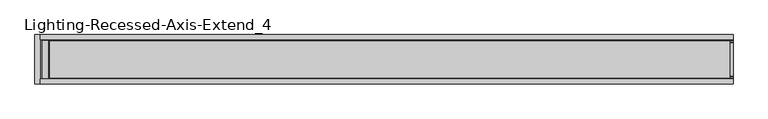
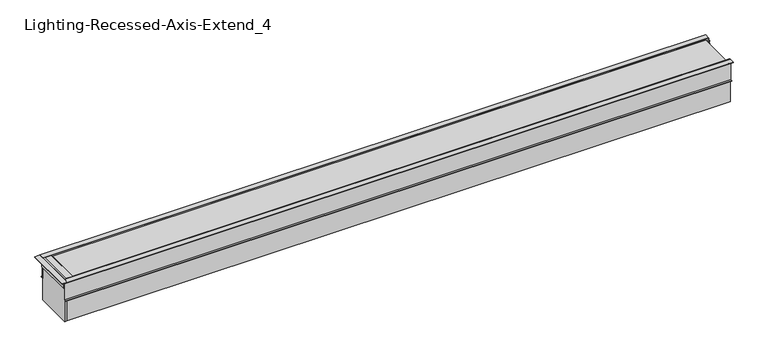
"""IFC4 building model written with IfcOpenShell, lengths in millimetres: light fixture geometry, Lighting-Recessed-Axis-Extend_4 : EX4R-900-80-35-SO-4."""

from ifc_helpers import new_model, si_unit, point, frame, frame_2d, origin, place, context, project, spatial, polyline, circle_curve, trimmed, segment, composite_curve, outline, extrude, faceted_brep, source, transform, mapped, element, save


def lighting_recessed_axis_extend_4_e0629199(model_context):
    return source(origin(), model_context, "Body", "SolidModel", [
        extrude(outline(polyline([(55.07101, -57.023), (59.735562, -57.023), (59.735562, -58.674), (52.78501, -58.674), (52.78501, 1.651), (66.37401, 1.651), (66.37401, 0.0), (55.07101, 0.0), (55.07101, -57.023)])), frame((-935.736, 0.0, 0.0), z_axis=(1.0, 0.0, 0.0), x_axis=(0.0, 1.0, 0.0)), (0.0, 0.0, 1.0), 1859.2927),
        extrude(outline(polyline([(-55.07101, -57.023), (-55.07101, 0.0), (-66.37401, 0.0), (-66.37401, 1.651), (-52.78501, 1.651), (-52.78501, -58.674), (-59.735562, -58.674), (-59.735562, -57.023), (-55.07101, -57.023)])), frame((-935.736, 0.0, 0.0), z_axis=(1.0, 0.0, 0.0), x_axis=(0.0, 1.0, 0.0)), (0.0, 0.0, 1.0), 1859.2927),
        faceted_brep([(-938.022, -52.78501, 0.0), (-938.022, -52.78501, -23.749), (-935.736, -52.78501, -23.749), (-935.736, -52.78501, 0.0), (-935.736, 52.78501, 0.0), (-935.736, 52.78501, -23.749), (-938.022, 52.78501, -23.749), (-938.022, 52.78501, 0.0), (-935.736, 66.37401, 0.0), (-935.736, 66.37401, 1.651), (-935.736, -66.37401, 1.651), (-935.736, -66.37401, 0.0), (-949.579, -66.37401, 0.0), (-949.579, -66.37401, 1.651), (-949.579, 66.37401, 0.0), (-949.579, 66.37401, 1.651)], [[[0, 1, 2, 3]], [[4, 5, 6, 7]], [[1, 0, 7, 6]], [[2, 1, 6, 5]], [[3, 2, 5, 4, 8, 9, 10, 11]], [[12, 11, 10, 13]], [[14, 15, 9, 8]], [[13, 10, 9, 15]], [[12, 13, 15, 14]], [[11, 12, 14, 8, 4, 7, 0, 3]]]),
        extrude(outline(polyline([(0.5492861, -911.0726), (1.651, -911.9971437), (1.651, -929.386), (-2.9332019, -929.386), (-2.9332019, -918.718), (-0.127, -918.718), (-0.127, -911.86635), (-0.92075, -911.86635), (-0.92075, -911.0726), (0.5492861, -911.0726)])), frame((0.0, -50.75301, 0.0), z_axis=(0.0, 1.0, 0.0), x_axis=(0.0, 0.0, 1.0)), (0.0, 0.0, 1.0), 101.50602),
        extrude(outline(polyline([(-929.386, 52.78501), (-929.386, -52.78501), (-935.736, -52.78501), (-935.736, 52.78501), (-929.386, 52.78501)])), frame((0.0, 0.0, -123.1265), z_axis=(0.0, 0.0, 1.0), x_axis=(1.0, 0.0, 0.0)), (0.0, 0.0, 1.0), 124.7775),
        extrude(outline(composite_curve([segment(polyline([(-44.9537362, -3.2385009), (-45.2924281, -9.7011263)]), True, "CONTINUOUS"), segment(trimmed(circle_curve(frame_2d((-48.03521, -12.7)), 4.064), [point((-45.2924281, -9.7011263))], [point((-46.1628914, -16.3070097))], False, "CARTESIAN"), True, "CONTINUOUS"), segment(trimmed(circle_curve(frame_2d((-42.930354, -15.5181543)), 3.3274001), [point((-46.1628914, -16.3070097))], [point((-45.3476056, -17.8047425))], True, "CARTESIAN"), True, "CONTINUOUS"), segment(trimmed(circle_curve(frame_2d((-37.9113277, -10.7704292)), 10.2362001), [point((-45.3476056, -17.8047425))], [point((-43.9929166, -19.0041445))], True, "CARTESIAN"), True, "CONTINUOUS"), segment(trimmed(circle_curve(frame_2d((-44.4833673, -19.6681538)), 0.8255), [point((-43.9929166, -19.0041445))], [point((-44.973818, -20.3321631))], False, "CARTESIAN"), True, "CONTINUOUS"), segment(trimmed(circle_curve(frame_2d((-37.9113269, -10.7704283)), 11.8872013), [point((-44.973818, -20.3321631))], [point((-46.5470052, -18.9393092))], False, "CARTESIAN"), True, "CONTINUOUS"), segment(trimmed(circle_curve(frame_2d((-42.930354, -15.5181543)), 4.9784001), [point((-46.5470052, -18.9393092))], [point((-47.8918907, -15.10874))], False, "CARTESIAN"), True, "CONTINUOUS"), segment(trimmed(circle_curve(frame_2d((-48.03521, -12.7)), 2.413), [point((-47.8918907, -15.10874))], [point((-46.2564041, -11.0695342))], True, "CARTESIAN"), True, "CONTINUOUS"), segment(trimmed(circle_curve(frame_2d((-44.3839769, -9.3532544)), 2.54), [point((-46.2564041, -11.0695342))], [point((-46.9204959, -9.2203211))], False, "CARTESIAN"), True, "CONTINUOUS"), segment(polyline([(-46.9204959, -9.2203211), (-46.607002, -3.2385009), (-49.61001, -3.2385009), (-49.61001, -1.3335), (49.61001, -1.3335), (49.61001, -3.2385009), (46.607002, -3.2385009), (46.9204959, -9.2203211)]), True, "CONTINUOUS"), segment(trimmed(circle_curve(frame_2d((44.3839769, -9.3532544)), 2.54), [point((46.9204959, -9.2203211))], [point((46.2564041, -11.0695342))], False, "CARTESIAN"), True, "CONTINUOUS"), segment(trimmed(circle_curve(frame_2d((48.03521, -12.7)), 2.413), [point((46.2564041, -11.0695342))], [point((47.8918907, -15.10874))], True, "CARTESIAN"), True, "CONTINUOUS"), segment(trimmed(circle_curve(frame_2d((42.930354, -15.5181543)), 4.9784001), [point((47.8918907, -15.10874))], [point((46.5470052, -18.9393092))], False, "CARTESIAN"), True, "CONTINUOUS"), segment(trimmed(circle_curve(frame_2d((37.9113269, -10.7704283)), 11.8872013), [point((46.5470052, -18.9393092))], [point((44.973818, -20.3321631))], False, "CARTESIAN"), True, "CONTINUOUS"), segment(trimmed(circle_curve(frame_2d((44.4833673, -19.6681538)), 0.8255), [point((44.973818, -20.3321631))], [point((43.9929166, -19.0041445))], False, "CARTESIAN"), True, "CONTINUOUS"), segment(trimmed(circle_curve(frame_2d((37.9113277, -10.7704292)), 10.2362001), [point((43.9929166, -19.0041445))], [point((45.3476056, -17.8047425))], True, "CARTESIAN"), True, "CONTINUOUS"), segment(trimmed(circle_curve(frame_2d((42.930354, -15.5181543)), 3.3274001), [point((45.3476056, -17.8047425))], [point((46.1628914, -16.3070097))], True, "CARTESIAN"), True, "CONTINUOUS"), segment(trimmed(circle_curve(frame_2d((48.03521, -12.7)), 4.064), [point((46.1628914, -16.3070097))], [point((45.2924281, -9.7011263))], False, "CARTESIAN"), True, "CONTINUOUS"), segment(polyline([(45.2924281, -9.7011263), (44.9537362, -3.2385009), (-44.9537362, -3.2385009)]), True, "CONTINUOUS")], self_intersect=False)), frame((-914.4, 0.0, 0.0), z_axis=(1.0, 0.0, 0.0), x_axis=(0.0, 1.0, 0.0)), (0.0, 0.0, 1.0), 1828.8),
        extrude(outline(composite_curve([segment(polyline([(-50.75301, -13.2588), (-50.75301, -121.0945), (50.75301, -121.0945), (50.75301, -13.2588), (48.9135897, -13.2588)]), True, "CONTINUOUS"), segment(trimmed(circle_curve(frame_2d((47.4072397, -13.2588)), 1.5063501), [point((48.9135897, -13.2588))], [point((46.6540646, -14.5633374))], False, "CARTESIAN"), True, "CONTINUOUS"), segment(trimmed(circle_curve(frame_2d((47.8452221, -12.5001921)), 2.382315), [point((46.6540646, -14.5633374))], [point((45.4706616, -12.3081318))], False, "CARTESIAN"), True, "CONTINUOUS"), segment(polyline([(45.4706616, -12.3081318), (48.84801, -9.4742), (48.84801, -11.2268), (50.75301, -11.2268), (50.75301, -4.699), (48.84801, -4.699), (48.84801, -6.223), (47.19701, -6.1364748), (47.19701, -3.429), (50.75301, -3.429), (50.75301, 1.651), (52.78501, 1.651), (52.78501, -123.1265), (-52.78501, -123.1265), (-52.78501, 1.651), (-50.75301, 1.651), (-50.75301, -3.429), (-47.19701, -3.429), (-47.19701, -6.1364748), (-48.84801, -6.223), (-48.84801, -4.699), (-50.75301, -4.699), (-50.75301, -11.2268), (-48.84801, -11.2268), (-48.84801, -9.4742), (-45.4706616, -12.3081318)]), True, "CONTINUOUS"), segment(trimmed(circle_curve(frame_2d((-47.8452221, -12.5001921)), 2.382315), [point((-45.4706616, -12.3081318))], [point((-46.6540646, -14.5633374))], False, "CARTESIAN"), True, "CONTINUOUS"), segment(trimmed(circle_curve(frame_2d((-47.4072397, -13.2588)), 1.5063501), [point((-46.6540646, -14.5633374))], [point((-48.9135897, -13.2588))], False, "CARTESIAN"), True, "CONTINUOUS"), segment(polyline([(-48.9135897, -13.2588), (-50.75301, -13.2588)]), True, "CONTINUOUS")], self_intersect=False)), frame((-929.386, 0.0, 0.0), z_axis=(1.0, 0.0, 0.0), x_axis=(0.0, 1.0, 0.0)), (0.0, 0.0, 1.0), 1852.9427),
    ])


if __name__ == "__main__":
    model = new_model("IFC4")
    model_context = context("Model", 3, world=origin())
    ifc_project = project(units=[si_unit("LENGTHUNIT", "METRE", prefix="MILLI")], contexts=[model_context])
    site = spatial("IfcSite", under=ifc_project)
    building = spatial("IfcBuilding", under=site)
    placement = place(None, origin())
    lighting_recessed_axis_extend_4_shape = lighting_recessed_axis_extend_4_e0629199(model_context)
    element("IfcLightFixture", 1, ObjectType="Lighting-Recessed-Axis-Extend_4 : EX4R-900-80-35-SO-4", at=placement, inside=building, context=model_context, shape_type="MappedRepresentation", body=[
        mapped(lighting_recessed_axis_extend_4_shape, transform((0.0, 0.0, 0.0), x_axis=(1.0, 0.0, 0.0), y_axis=(0.0, 1.0, 0.0), z_axis=(0.0, 0.0, 1.0))),
    ])
    save(model, "model.ifc")
